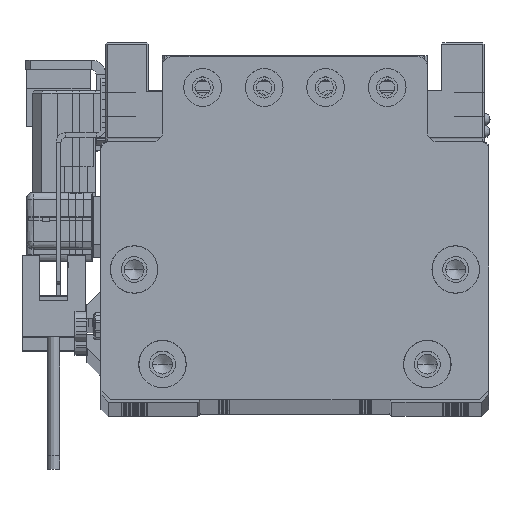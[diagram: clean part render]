
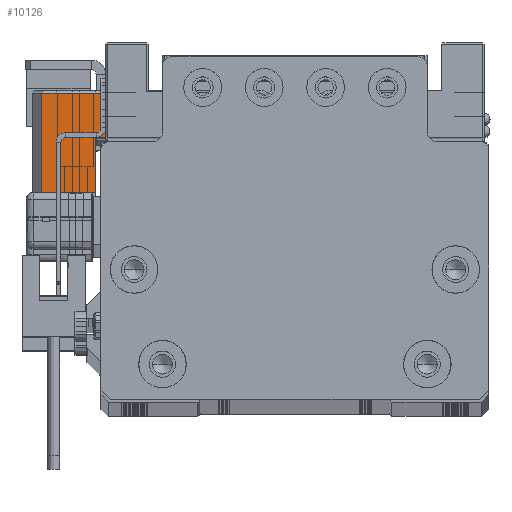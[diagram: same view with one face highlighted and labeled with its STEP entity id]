
A CAD part, top view. The second image highlights one B-rep face of the part: STEP entity #10126.
In plain terms, the highlighted planar face has unit normal (0, 0, 1) as drawn and (1, 0, 0) by its records, which use the part's own axes.
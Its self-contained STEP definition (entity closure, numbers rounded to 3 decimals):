
#968 = CARTESIAN_POINT ( 'NONE',  ( 17., 10.25, -2. ) ) ;
#1066 = VERTEX_POINT ( 'NONE', #18122 ) ;
#2953 = VECTOR ( 'NONE', #37166, 1000. ) ;
#3763 = VECTOR ( 'NONE', #55550, 1000. ) ;
#3921 = LINE ( 'NONE', #21025, #3763 ) ;
#7367 = EDGE_CURVE ( 'NONE', #53932, #25561, #24123, .T. ) ;
#8042 = DIRECTION ( 'NONE',  ( 0., 0., -1. ) ) ;
#10126 = ADVANCED_FACE ( 'NONE', ( #24761 ), #70094, .T. ) ;
#14812 = VECTOR ( 'NONE', #25210, 1000. ) ;
#18122 = CARTESIAN_POINT ( 'NONE',  ( 17., 0.75, -15.5 ) ) ;
#20870 = ORIENTED_EDGE ( 'NONE', *, *, #7367, .F. ) ;
#21025 = CARTESIAN_POINT ( 'NONE',  ( 17., -10.75, -13.3 ) ) ;
#22520 = VECTOR ( 'NONE', #31040, 1000. ) ;
#22808 = EDGE_LOOP ( 'NONE', ( #40074, #37130, #25519, #20870, #28849, #23553 ) ) ;
#23553 = ORIENTED_EDGE ( 'NONE', *, *, #53259, .F. ) ;
#24123 = LINE ( 'NONE', #69820, #14812 ) ;
#24761 = FACE_OUTER_BOUND ( 'NONE', #22808, .T. ) ;
#25210 = DIRECTION ( 'NONE',  ( 0., 0., 1. ) ) ;
#25519 = ORIENTED_EDGE ( 'NONE', *, *, #28206, .T. ) ;
#25561 = VERTEX_POINT ( 'NONE', #46302 ) ;
#28206 = EDGE_CURVE ( 'NONE', #63838, #25561, #70827, .T. ) ;
#28849 = ORIENTED_EDGE ( 'NONE', *, *, #34486, .F. ) ;
#30693 = EDGE_CURVE ( 'NONE', #32013, #63838, #38288, .T. ) ;
#31040 = DIRECTION ( 'NONE',  ( 0., -1., 0. ) ) ;
#31580 = CARTESIAN_POINT ( 'NONE',  ( 17., -10.75, -15.5 ) ) ;
#31625 = CARTESIAN_POINT ( 'NONE',  ( 17., -10.75, -13.3 ) ) ;
#32013 = VERTEX_POINT ( 'NONE', #58382 ) ;
#34486 = EDGE_CURVE ( 'NONE', #49265, #53932, #3921, .T. ) ;
#37130 = ORIENTED_EDGE ( 'NONE', *, *, #30693, .T. ) ;
#37166 = DIRECTION ( 'NONE',  ( 0., 0., 1. ) ) ;
#37369 = CARTESIAN_POINT ( 'NONE',  ( 17., -10.75, -15.5 ) ) ;
#37978 = EDGE_CURVE ( 'NONE', #1066, #32013, #71706, .T. ) ;
#38288 = LINE ( 'NONE', #66505, #2953 ) ;
#38400 = VECTOR ( 'NONE', #65011, 1000. ) ;
#40074 = ORIENTED_EDGE ( 'NONE', *, *, #37978, .T. ) ;
#41866 = DIRECTION ( 'NONE',  ( 1., 0., 0. ) ) ;
#43816 = LINE ( 'NONE', #54231, #50603 ) ;
#46302 = CARTESIAN_POINT ( 'NONE',  ( 17., -10.75, -2. ) ) ;
#49265 = VERTEX_POINT ( 'NONE', #72025 ) ;
#50603 = VECTOR ( 'NONE', #59793, 1000. ) ;
#53259 = EDGE_CURVE ( 'NONE', #1066, #49265, #43816, .T. ) ;
#53932 = VERTEX_POINT ( 'NONE', #31625 ) ;
#54231 = CARTESIAN_POINT ( 'NONE',  ( 17., 0.75, -15.5 ) ) ;
#55550 = DIRECTION ( 'NONE',  ( 0., -1., 0. ) ) ;
#58382 = CARTESIAN_POINT ( 'NONE',  ( 17., 10.25, -15.5 ) ) ;
#59793 = DIRECTION ( 'NONE',  ( 0., 0., 1. ) ) ;
#63838 = VERTEX_POINT ( 'NONE', #968 ) ;
#64483 = CARTESIAN_POINT ( 'NONE',  ( 17., -10.75, -2. ) ) ;
#65011 = DIRECTION ( 'NONE',  ( 0., 1., 0. ) ) ;
#65802 = AXIS2_PLACEMENT_3D ( 'NONE', #37369, #41866, #8042 ) ;
#66505 = CARTESIAN_POINT ( 'NONE',  ( 17., 10.25, -15.5 ) ) ;
#69820 = CARTESIAN_POINT ( 'NONE',  ( 17., -10.75, -15.5 ) ) ;
#70094 = PLANE ( 'NONE',  #65802 ) ;
#70827 = LINE ( 'NONE', #64483, #22520 ) ;
#71706 = LINE ( 'NONE', #31580, #38400 ) ;
#72025 = CARTESIAN_POINT ( 'NONE',  ( 17., 0.75, -13.3 ) ) ;
